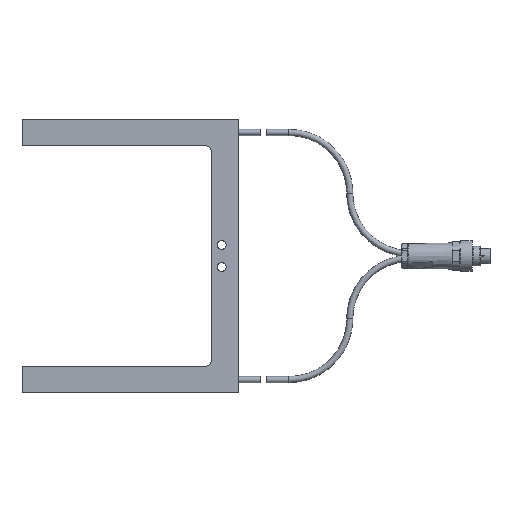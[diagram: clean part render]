
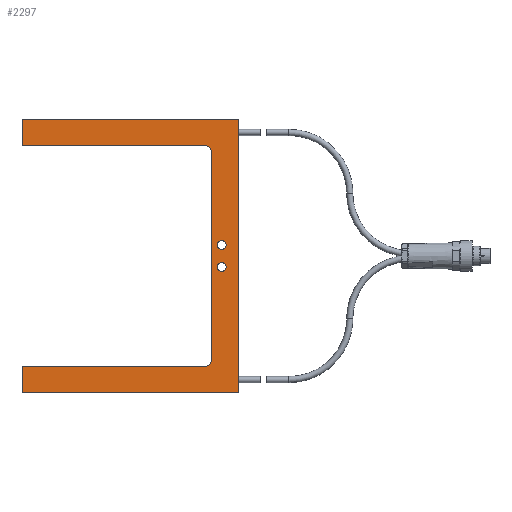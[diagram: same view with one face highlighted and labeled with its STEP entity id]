
A CAD part, top view. The second image highlights one B-rep face of the part: STEP entity #2297.
In plain terms, the highlighted planar face has unit normal (0, 0, 1).
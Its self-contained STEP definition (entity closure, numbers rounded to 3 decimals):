
#116=LINE($,#4063,#204);
#120=LINE($,#4075,#208);
#121=LINE($,#4079,#209);
#125=LINE($,#4087,#213);
#128=LINE($,#4093,#216);
#131=LINE($,#4098,#219);
#133=LINE($,#4102,#221);
#136=LINE($,#4107,#224);
#204=VECTOR($,#3263,94.);
#208=VECTOR($,#3275,83.);
#209=VECTOR($,#3278,98.);
#213=VECTOR($,#3284,124.);
#216=VECTOR($,#3289,83.);
#219=VECTOR($,#3294,12.);
#221=VECTOR($,#3298,12.);
#224=VECTOR($,#3303,98.);
#307=PLANE($,#2610);
#411=FACE_BOUND($,#801,.T.);
#412=FACE_BOUND($,#802,.T.);
#413=FACE_BOUND($,#803,.T.);
#801=EDGE_LOOP($,(#1911));
#802=EDGE_LOOP($,(#1912));
#803=EDGE_LOOP($,(#1913,#1914,#1915,#1916,#1917,#1918,#1919,#1920,#1921,
#1922));
#943=CIRCLE($,#2590,2.05);
#945=CIRCLE($,#2593,2.05);
#948=CIRCLE($,#2597,3.);
#950=CIRCLE($,#2601,3.);
#1123=VERTEX_POINT($,#4040);
#1125=VERTEX_POINT($,#4045);
#1129=VERTEX_POINT($,#4053);
#1130=VERTEX_POINT($,#4055);
#1132=VERTEX_POINT($,#4061);
#1134=VERTEX_POINT($,#4067);
#1136=VERTEX_POINT($,#4073);
#1137=VERTEX_POINT($,#4077);
#1138=VERTEX_POINT($,#4078);
#1141=VERTEX_POINT($,#4086);
#1143=VERTEX_POINT($,#4092);
#1145=VERTEX_POINT($,#4101);
#1369=EDGE_CURVE($,#1123,#1123,#943,.T.);
#1371=EDGE_CURVE($,#1125,#1125,#945,.T.);
#1375=EDGE_CURVE($,#1129,#1130,#948,.T.);
#1379=EDGE_CURVE($,#1132,#1129,#116,.T.);
#1382=EDGE_CURVE($,#1134,#1132,#950,.T.);
#1385=EDGE_CURVE($,#1136,#1134,#120,.T.);
#1386=EDGE_CURVE($,#1137,#1138,#121,.T.);
#1390=EDGE_CURVE($,#1138,#1141,#125,.T.);
#1393=EDGE_CURVE($,#1130,#1143,#128,.T.);
#1396=EDGE_CURVE($,#1143,#1137,#131,.T.);
#1398=EDGE_CURVE($,#1145,#1136,#133,.T.);
#1401=EDGE_CURVE($,#1141,#1145,#136,.T.);
#1911=ORIENTED_EDGE($,*,*,#1371,.T.);
#1912=ORIENTED_EDGE($,*,*,#1369,.T.);
#1913=ORIENTED_EDGE($,*,*,#1398,.F.);
#1914=ORIENTED_EDGE($,*,*,#1401,.F.);
#1915=ORIENTED_EDGE($,*,*,#1390,.F.);
#1916=ORIENTED_EDGE($,*,*,#1386,.F.);
#1917=ORIENTED_EDGE($,*,*,#1396,.F.);
#1918=ORIENTED_EDGE($,*,*,#1393,.F.);
#1919=ORIENTED_EDGE($,*,*,#1375,.F.);
#1920=ORIENTED_EDGE($,*,*,#1379,.F.);
#1921=ORIENTED_EDGE($,*,*,#1382,.F.);
#1922=ORIENTED_EDGE($,*,*,#1385,.F.);
#2297=ADVANCED_FACE($,(#411,#412,#413),#307,.T.);
#2590=AXIS2_PLACEMENT_3D($,#4041,#3241,#3242);
#2593=AXIS2_PLACEMENT_3D($,#4046,#3247,#3248);
#2597=AXIS2_PLACEMENT_3D($,#4056,#3256,#3257);
#2601=AXIS2_PLACEMENT_3D($,#4069,#3269,#3270);
#2610=AXIS2_PLACEMENT_3D($,#4110,#3307,#3308);
#3241=DIRECTION('center_axis',(0.,0.,-1.));
#3242=DIRECTION('ref_axis',(1.,0.,0.));
#3247=DIRECTION('center_axis',(0.,0.,-1.));
#3248=DIRECTION('ref_axis',(1.,0.,0.));
#3256=DIRECTION('center_axis',(0.,0.,1.));
#3257=DIRECTION('ref_axis',(0.707,0.707,0.));
#3263=DIRECTION($,(0.,1.,0.));
#3269=DIRECTION('center_axis',(0.,0.,1.));
#3270=DIRECTION('ref_axis',(0.707,-0.707,0.));
#3275=DIRECTION($,(1.,0.,0.));
#3278=DIRECTION($,(1.,0.,0.));
#3284=DIRECTION($,(0.,-1.,0.));
#3289=DIRECTION($,(-1.,0.,0.));
#3294=DIRECTION($,(0.,1.,0.));
#3298=DIRECTION($,(0.,1.,0.));
#3303=DIRECTION($,(-1.,0.,0.));
#3307=DIRECTION('center_axis',(0.,0.,1.));
#3308=DIRECTION('ref_axis',(1.,0.,0.));
#4040=CARTESIAN_POINT('',(43.55,5.,12.));
#4041=CARTESIAN_POINT('Origin',(41.5,5.,12.));
#4045=CARTESIAN_POINT('',(43.55,-5.,12.));
#4046=CARTESIAN_POINT('Origin',(41.5,-5.,12.));
#4053=CARTESIAN_POINT('',(37.,47.,12.));
#4055=CARTESIAN_POINT('',(34.,50.,12.));
#4056=CARTESIAN_POINT('Origin',(34.,47.,12.));
#4061=CARTESIAN_POINT('',(37.,-47.,12.));
#4063=CARTESIAN_POINT($,(37.,50.,12.));
#4067=CARTESIAN_POINT('',(34.,-50.,12.));
#4069=CARTESIAN_POINT('Origin',(34.,-47.,12.));
#4073=CARTESIAN_POINT('',(-49.,-50.,12.));
#4075=CARTESIAN_POINT($,(37.,-50.,12.));
#4077=CARTESIAN_POINT('',(-49.,62.,12.));
#4078=CARTESIAN_POINT('',(49.,62.,12.));
#4079=CARTESIAN_POINT($,(49.,62.,12.));
#4086=CARTESIAN_POINT('',(49.,-62.,12.));
#4087=CARTESIAN_POINT($,(49.,-62.,12.));
#4092=CARTESIAN_POINT('',(-49.,50.,12.));
#4093=CARTESIAN_POINT($,(-49.,50.,12.));
#4098=CARTESIAN_POINT($,(-49.,62.,12.));
#4101=CARTESIAN_POINT('',(-49.,-62.,12.));
#4102=CARTESIAN_POINT($,(-49.,-50.,12.));
#4107=CARTESIAN_POINT($,(-49.,-62.,12.));
#4110=CARTESIAN_POINT('Origin',(-46.,-56.,12.));
